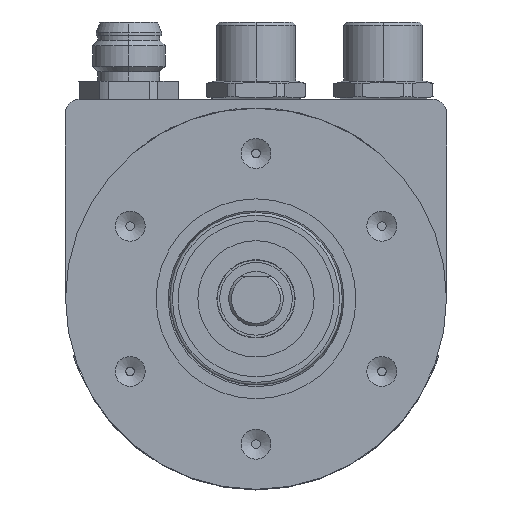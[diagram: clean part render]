
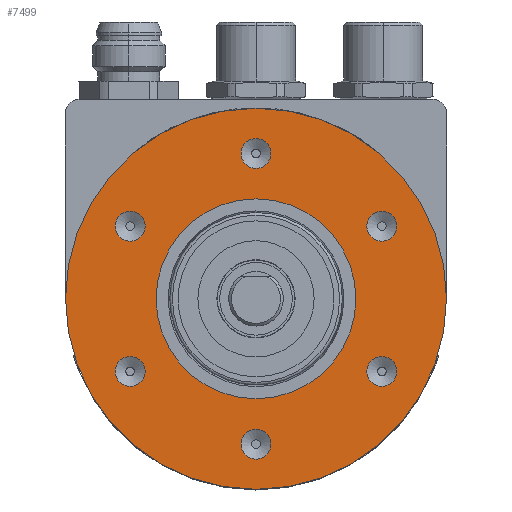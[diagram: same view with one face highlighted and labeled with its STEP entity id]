
A CAD part, front view. The second image highlights one B-rep face of the part: STEP entity #7499.
In plain terms, the highlighted planar face has unit normal (0, -1, 0).
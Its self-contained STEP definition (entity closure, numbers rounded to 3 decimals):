
#53 = CARTESIAN_POINT ( 'NONE',  ( -13.856, 0., 8. ) ) ;
#734 = EDGE_LOOP ( 'NONE', ( #2889 ) ) ;
#837 = EDGE_LOOP ( 'NONE', ( #6495 ) ) ;
#913 = EDGE_LOOP ( 'NONE', ( #13692 ) ) ;
#1084 = DIRECTION ( 'NONE',  ( 0., -1., 0. ) ) ;
#1176 = AXIS2_PLACEMENT_3D ( 'NONE', #12394, #4672, #2400 ) ;
#1369 = EDGE_CURVE ( 'NONE', #3614, #3614, #5315, .T. ) ;
#1764 = PLANE ( 'NONE',  #11136 ) ;
#1950 = CIRCLE ( 'NONE', #4063, 1.65 ) ;
#2400 = DIRECTION ( 'NONE',  ( 0., 0., -1. ) ) ;
#2440 = VERTEX_POINT ( 'NONE', #7865 ) ;
#2454 = ORIENTED_EDGE ( 'NONE', *, *, #11007, .F. ) ;
#2530 = EDGE_CURVE ( 'NONE', #4505, #4505, #13795, .T. ) ;
#2726 = CARTESIAN_POINT ( 'NONE',  ( 0., 0., 14.35 ) ) ;
#2839 = EDGE_LOOP ( 'NONE', ( #4698 ) ) ;
#2881 = DIRECTION ( 'NONE',  ( 0., 0., -1. ) ) ;
#2889 = ORIENTED_EDGE ( 'NONE', *, *, #6449, .F. ) ;
#3183 = DIRECTION ( 'NONE',  ( 0., -1., 0. ) ) ;
#3437 = DIRECTION ( 'NONE',  ( 0., -1., 0. ) ) ;
#3614 = VERTEX_POINT ( 'NONE', #10078 ) ;
#3828 = VERTEX_POINT ( 'NONE', #2726 ) ;
#3838 = CARTESIAN_POINT ( 'NONE',  ( 0., 0., -16. ) ) ;
#3974 = FACE_BOUND ( 'NONE', #5864, .T. ) ;
#4063 = AXIS2_PLACEMENT_3D ( 'NONE', #13434, #1084, #5564 ) ;
#4244 = EDGE_CURVE ( 'NONE', #2440, #2440, #10766, .T. ) ;
#4291 = DIRECTION ( 'NONE',  ( 0., 0., -1. ) ) ;
#4337 = VERTEX_POINT ( 'NONE', #6387 ) ;
#4445 = AXIS2_PLACEMENT_3D ( 'NONE', #12113, #11237, #10124 ) ;
#4505 = VERTEX_POINT ( 'NONE', #4717 ) ;
#4672 = DIRECTION ( 'NONE',  ( 0., -1., 0. ) ) ;
#4698 = ORIENTED_EDGE ( 'NONE', *, *, #12834, .F. ) ;
#4717 = CARTESIAN_POINT ( 'NONE',  ( 0., 0., -17.65 ) ) ;
#4790 = EDGE_CURVE ( 'NONE', #12441, #12441, #5156, .T. ) ;
#5071 = FACE_BOUND ( 'NONE', #10558, .T. ) ;
#5087 = AXIS2_PLACEMENT_3D ( 'NONE', #6541, #11038, #2881 ) ;
#5156 = CIRCLE ( 'NONE', #1176, 1.65 ) ;
#5191 = ORIENTED_EDGE ( 'NONE', *, *, #4790, .F. ) ;
#5315 = CIRCLE ( 'NONE', #13535, 20.975 ) ;
#5564 = DIRECTION ( 'NONE',  ( 0., 0., -1. ) ) ;
#5864 = EDGE_LOOP ( 'NONE', ( #2454 ) ) ;
#5872 = DIRECTION ( 'NONE',  ( 0., 0., -1. ) ) ;
#6033 = AXIS2_PLACEMENT_3D ( 'NONE', #3838, #6180, #7290 ) ;
#6173 = FACE_BOUND ( 'NONE', #2839, .T. ) ;
#6180 = DIRECTION ( 'NONE',  ( 0., -1., 0. ) ) ;
#6243 = CARTESIAN_POINT ( 'NONE',  ( 11., 0., 0. ) ) ;
#6319 = FACE_BOUND ( 'NONE', #8882, .T. ) ;
#6342 = AXIS2_PLACEMENT_3D ( 'NONE', #13245, #3183, #4291 ) ;
#6387 = CARTESIAN_POINT ( 'NONE',  ( 0., 0., -11. ) ) ;
#6449 = EDGE_CURVE ( 'NONE', #3828, #3828, #1950, .T. ) ;
#6495 = ORIENTED_EDGE ( 'NONE', *, *, #1369, .T. ) ;
#6541 = CARTESIAN_POINT ( 'NONE',  ( 0., 0., 0. ) ) ;
#6911 = CARTESIAN_POINT ( 'NONE',  ( 13.856, 0., 6.35 ) ) ;
#7281 = FACE_BOUND ( 'NONE', #913, .T. ) ;
#7290 = DIRECTION ( 'NONE',  ( 0., 0., -1. ) ) ;
#7418 = FACE_BOUND ( 'NONE', #10619, .T. ) ;
#7499 = ADVANCED_FACE ( 'NONE', ( #6319, #7281, #7418, #6173, #5071, #10657, #14038, #3974 ), #1764, .T. ) ;
#7564 = CARTESIAN_POINT ( 'NONE',  ( 13.856, 0., -9.65 ) ) ;
#7865 = CARTESIAN_POINT ( 'NONE',  ( -13.856, 0., -9.65 ) ) ;
#8160 = VERTEX_POINT ( 'NONE', #9326 ) ;
#8178 = EDGE_CURVE ( 'NONE', #8160, #8160, #8329, .T. ) ;
#8220 = DIRECTION ( 'NONE',  ( 0., -1., 0. ) ) ;
#8329 = CIRCLE ( 'NONE', #9269, 1.65 ) ;
#8330 = ORIENTED_EDGE ( 'NONE', *, *, #8178, .F. ) ;
#8514 = VERTEX_POINT ( 'NONE', #7564 ) ;
#8882 = EDGE_LOOP ( 'NONE', ( #8330 ) ) ;
#9269 = AXIS2_PLACEMENT_3D ( 'NONE', #53, #3437, #10404 ) ;
#9326 = CARTESIAN_POINT ( 'NONE',  ( -13.856, 0., 6.35 ) ) ;
#9393 = CARTESIAN_POINT ( 'NONE',  ( 0., 0., 0. ) ) ;
#10078 = CARTESIAN_POINT ( 'NONE',  ( 0., 0., -20.975 ) ) ;
#10124 = DIRECTION ( 'NONE',  ( 0., 0., -1. ) ) ;
#10404 = DIRECTION ( 'NONE',  ( 0., 0., -1. ) ) ;
#10558 = EDGE_LOOP ( 'NONE', ( #5191 ) ) ;
#10619 = EDGE_LOOP ( 'NONE', ( #11560 ) ) ;
#10657 = FACE_BOUND ( 'NONE', #734, .T. ) ;
#10730 = DIRECTION ( 'NONE',  ( 0., 0., -1. ) ) ;
#10766 = CIRCLE ( 'NONE', #4445, 1.65 ) ;
#11007 = EDGE_CURVE ( 'NONE', #4337, #4337, #13550, .T. ) ;
#11038 = DIRECTION ( 'NONE',  ( 0., -1., 0. ) ) ;
#11136 = AXIS2_PLACEMENT_3D ( 'NONE', #6243, #11915, #10730 ) ;
#11237 = DIRECTION ( 'NONE',  ( 0., -1., 0. ) ) ;
#11560 = ORIENTED_EDGE ( 'NONE', *, *, #2530, .F. ) ;
#11746 = CIRCLE ( 'NONE', #6342, 1.65 ) ;
#11915 = DIRECTION ( 'NONE',  ( 0., -1., 0. ) ) ;
#12113 = CARTESIAN_POINT ( 'NONE',  ( -13.856, 0., -8. ) ) ;
#12394 = CARTESIAN_POINT ( 'NONE',  ( 13.856, 0., 8. ) ) ;
#12441 = VERTEX_POINT ( 'NONE', #6911 ) ;
#12834 = EDGE_CURVE ( 'NONE', #8514, #8514, #11746, .T. ) ;
#13245 = CARTESIAN_POINT ( 'NONE',  ( 13.856, 0., -8. ) ) ;
#13434 = CARTESIAN_POINT ( 'NONE',  ( 0., 0., 16. ) ) ;
#13535 = AXIS2_PLACEMENT_3D ( 'NONE', #9393, #8220, #5872 ) ;
#13550 = CIRCLE ( 'NONE', #5087, 11. ) ;
#13692 = ORIENTED_EDGE ( 'NONE', *, *, #4244, .F. ) ;
#13795 = CIRCLE ( 'NONE', #6033, 1.65 ) ;
#14038 = FACE_OUTER_BOUND ( 'NONE', #837, .T. ) ;
